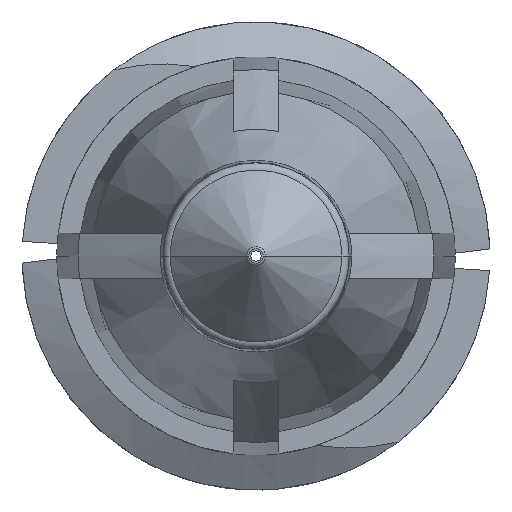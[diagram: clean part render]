
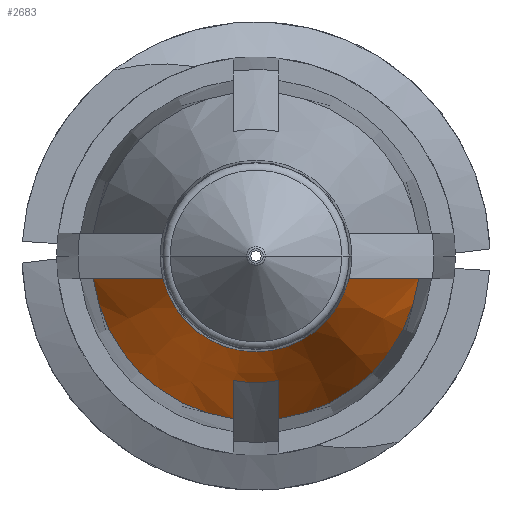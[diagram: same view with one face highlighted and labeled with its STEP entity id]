
A CAD part, front view. The second image highlights one B-rep face of the part: STEP entity #2683.
In plain terms, the highlighted conical face has half-angle 20 degrees and reference radius 2.745 mm.
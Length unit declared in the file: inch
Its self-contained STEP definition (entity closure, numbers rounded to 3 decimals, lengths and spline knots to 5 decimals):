
#69 = AXIS2_PLACEMENT_3D ( 'NONE', #1337, #1858, #2162 ) ;
#131 = EDGE_CURVE ( 'NONE', #187, #1245, #2250, .T. ) ;
#149 = DIRECTION ( 'NONE',  ( -1., 0., 0. ) ) ;
#187 = VERTEX_POINT ( 'NONE', #422 ) ;
#236 = ORIENTED_EDGE ( 'NONE', *, *, #1826, .F. ) ;
#268 = ORIENTED_EDGE ( 'NONE', *, *, #684, .F. ) ;
#412 = CARTESIAN_POINT ( 'NONE',  ( 0.07664, -0.48863, -0.015 ) ) ;
#422 = CARTESIAN_POINT ( 'NONE',  ( -0.015, -0.47395, -0.08198 ) ) ;
#466 = VERTEX_POINT ( 'NONE', #1110 ) ;
#486 = CARTESIAN_POINT ( 'NONE',  ( 0.015, -0.47395, -0.08198 ) ) ;
#518 = AXIS2_PLACEMENT_3D ( 'NONE', #3091, #2542, #3071 ) ;
#544 = AXIS2_PLACEMENT_3D ( 'NONE', #1646, #2893, #828 ) ;
#545 = VERTEX_POINT ( 'NONE', #3262 ) ;
#551 = CARTESIAN_POINT ( 'NONE',  ( -0.10703, -0.406, -0.015 ) ) ;
#600 = VERTEX_POINT ( 'NONE', #3084 ) ;
#647 = ORIENTED_EDGE ( 'NONE', *, *, #2944, .F. ) ;
#684 = EDGE_CURVE ( 'NONE', #2270, #600, #765, .T. ) ;
#701 = CARTESIAN_POINT ( 'NONE',  ( 0., -0.47395, 0. ) ) ;
#763 = CARTESIAN_POINT ( 'NONE',  ( 0., -0.406, 0. ) ) ;
#765 = CIRCLE ( 'NONE', #544, 0.10808 ) ;
#771 = VERTEX_POINT ( 'NONE', #964 ) ;
#828 = DIRECTION ( 'NONE',  ( 1., 0., 0. ) ) ;
#962 = CARTESIAN_POINT ( 'NONE',  ( -0.015, -0.406, -0.10703 ) ) ;
#964 = CARTESIAN_POINT ( 'NONE',  ( -0.10703, -0.406, -0.015 ) ) ;
#1054 = CIRCLE ( 'NONE', #3205, 0.10808 ) ;
#1110 = CARTESIAN_POINT ( 'NONE',  ( -0.06119, -0.52985, -0.015 ) ) ;
#1122 = EDGE_CURVE ( 'NONE', #3003, #2270, #1127, .T. ) ;
#1127 = B_SPLINE_CURVE_WITH_KNOTS ( 'NONE', 3,
 ( #1166, #412, #1442, #3244 ),
 .UNSPECIFIED., .F., .F.,
 ( 4, 4 ),
 ( 0.00282, 0.00617 ),
 .UNSPECIFIED. ) ;
#1166 = CARTESIAN_POINT ( 'NONE',  ( 0.06119, -0.52985, -0.015 ) ) ;
#1245 = VERTEX_POINT ( 'NONE', #2976 ) ;
#1304 = DIRECTION ( 'NONE',  ( 0., 1., 0. ) ) ;
#1313 = CIRCLE ( 'NONE', #1528, 0.08335 ) ;
#1334 = EDGE_CURVE ( 'NONE', #600, #545, #3188, .T. ) ;
#1337 = CARTESIAN_POINT ( 'NONE',  ( 0., -0.406, 0. ) ) ;
#1364 = ORIENTED_EDGE ( 'NONE', *, *, #131, .F. ) ;
#1442 = CARTESIAN_POINT ( 'NONE',  ( 0.09185, -0.44732, -0.015 ) ) ;
#1486 = DIRECTION ( 'NONE',  ( 1., 0., 0. ) ) ;
#1505 = CARTESIAN_POINT ( 'NONE',  ( 0.015, -0.45131, -0.09036 ) ) ;
#1528 = AXIS2_PLACEMENT_3D ( 'NONE', #701, #2722, #149 ) ;
#1567 = CARTESIAN_POINT ( 'NONE',  ( -0.07664, -0.48863, -0.015 ) ) ;
#1646 = CARTESIAN_POINT ( 'NONE',  ( 0., -0.406, 0. ) ) ;
#1820 = ORIENTED_EDGE ( 'NONE', *, *, #1334, .F. ) ;
#1826 = EDGE_CURVE ( 'NONE', #545, #187, #1313, .T. ) ;
#1857 = CARTESIAN_POINT ( 'NONE',  ( 0.06119, -0.52985, -0.015 ) ) ;
#1858 = DIRECTION ( 'NONE',  ( 0., 1., 0. ) ) ;
#1974 = ORIENTED_EDGE ( 'NONE', *, *, #1122, .F. ) ;
#2042 = EDGE_LOOP ( 'NONE', ( #1974, #2856, #2887, #647, #1364, #236, #1820, #268 ) ) ;
#2043 = CARTESIAN_POINT ( 'NONE',  ( 0.015, -0.406, -0.10703 ) ) ;
#2049 = CARTESIAN_POINT ( 'NONE',  ( -0.015, -0.47395, -0.08198 ) ) ;
#2123 = EDGE_CURVE ( 'NONE', #466, #771, #2841, .T. ) ;
#2162 = DIRECTION ( 'NONE',  ( 1., 0., 0. ) ) ;
#2188 = CONICAL_SURFACE ( 'NONE', #69, 0.10808, 0.349 ) ;
#2245 = CIRCLE ( 'NONE', #518, 0.063 ) ;
#2250 = B_SPLINE_CURVE_WITH_KNOTS ( 'NONE', 3,
 ( #2049, #2256, #3271, #962 ),
 .UNSPECIFIED., .F., .F.,
 ( 4, 4 ),
 ( 0.00247, 0.00431 ),
 .UNSPECIFIED. ) ;
#2256 = CARTESIAN_POINT ( 'NONE',  ( -0.015, -0.45131, -0.09036 ) ) ;
#2270 = VERTEX_POINT ( 'NONE', #2294 ) ;
#2294 = CARTESIAN_POINT ( 'NONE',  ( 0.10703, -0.406, -0.015 ) ) ;
#2382 = FACE_OUTER_BOUND ( 'NONE', #2042, .T. ) ;
#2542 = DIRECTION ( 'NONE',  ( 0., 1., 0. ) ) ;
#2548 = EDGE_CURVE ( 'NONE', #3003, #466, #2245, .T. ) ;
#2570 = CARTESIAN_POINT ( 'NONE',  ( 0.015, -0.42866, -0.0987 ) ) ;
#2683 = ADVANCED_FACE ( 'NONE', ( #2382 ), #2188, .T. ) ;
#2722 = DIRECTION ( 'NONE',  ( 0., 1., 0. ) ) ;
#2834 = CARTESIAN_POINT ( 'NONE',  ( -0.09185, -0.44732, -0.015 ) ) ;
#2841 = B_SPLINE_CURVE_WITH_KNOTS ( 'NONE', 3,
 ( #2848, #1567, #2834, #551 ),
 .UNSPECIFIED., .F., .F.,
 ( 4, 4 ),
 ( 0.00282, 0.00617 ),
 .UNSPECIFIED. ) ;
#2848 = CARTESIAN_POINT ( 'NONE',  ( -0.06119, -0.52985, -0.015 ) ) ;
#2856 = ORIENTED_EDGE ( 'NONE', *, *, #2548, .T. ) ;
#2887 = ORIENTED_EDGE ( 'NONE', *, *, #2123, .T. ) ;
#2893 = DIRECTION ( 'NONE',  ( 0., 1., 0. ) ) ;
#2944 = EDGE_CURVE ( 'NONE', #1245, #771, #1054, .T. ) ;
#2976 = CARTESIAN_POINT ( 'NONE',  ( -0.015, -0.406, -0.10703 ) ) ;
#3003 = VERTEX_POINT ( 'NONE', #1857 ) ;
#3071 = DIRECTION ( 'NONE',  ( 1., 0., 0. ) ) ;
#3084 = CARTESIAN_POINT ( 'NONE',  ( 0.015, -0.406, -0.10703 ) ) ;
#3091 = CARTESIAN_POINT ( 'NONE',  ( 0., -0.52985, 0. ) ) ;
#3188 = B_SPLINE_CURVE_WITH_KNOTS ( 'NONE', 3,
 ( #2043, #2570, #1505, #486 ),
 .UNSPECIFIED., .F., .F.,
 ( 4, 4 ),
 ( 0.00343, 0.00527 ),
 .UNSPECIFIED. ) ;
#3205 = AXIS2_PLACEMENT_3D ( 'NONE', #763, #1304, #1486 ) ;
#3244 = CARTESIAN_POINT ( 'NONE',  ( 0.10703, -0.406, -0.015 ) ) ;
#3262 = CARTESIAN_POINT ( 'NONE',  ( 0.015, -0.47395, -0.08198 ) ) ;
#3271 = CARTESIAN_POINT ( 'NONE',  ( -0.015, -0.42866, -0.0987 ) ) ;
